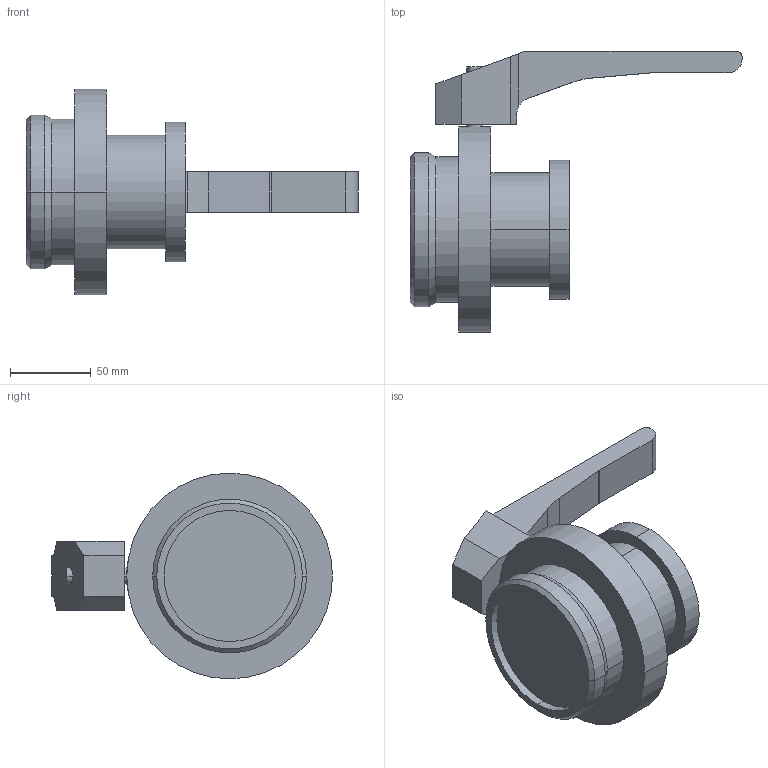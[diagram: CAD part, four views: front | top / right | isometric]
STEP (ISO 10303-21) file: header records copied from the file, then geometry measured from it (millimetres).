
FILE_DESCRIPTION(('Creo Elements/Direct Modeling STEP Export'),'2;1');
FILE_NAME('SV1-65-H-1K2G.stp','2012-10-23T11:09:15',(''),(''),'Creo Elements/Direct Modeling STEP processor for AP214 (Solid Model)','Creo Elements/Direct Modeling 17.0D 15-Jul-2011 (C) Parametric Technology GmbH','');
FILE_SCHEMA(('AUTOMOTIVE_DESIGN { 1 0 10303 214 1 1 1 1 }'));
Length unit declared in the file: millimetre
Products named in the file (3): HANDHEBEL-SV-40-100; SV1-65-1K-2G; SV1-65-H-1K-2G
Assembly tree (2 placements, depth 2):
  SV1-65-H-1K-2G
    SV1-65-1K-2G
    HANDHEBEL-SV-40-100
Bounding box: 205 x 173.5 x 127 mm (x, y, z)
Volume: 763896.1 mm3; surface area: 80001.3 mm2
Topology: 2 solids, 2 shells, 50 faces, 115 edges, 74 vertices
Faces by surface type: plane 25, cylinder 21, cone 4
Entity records: 1461 total; most frequent: CARTESIAN_POINT 284, ORIENTED_EDGE 230, DIRECTION 227, EDGE_CURVE 115, AXIS2_PLACEMENT_3D 80, VERTEX_POINT 74, VECTOR 67, LINE 67
